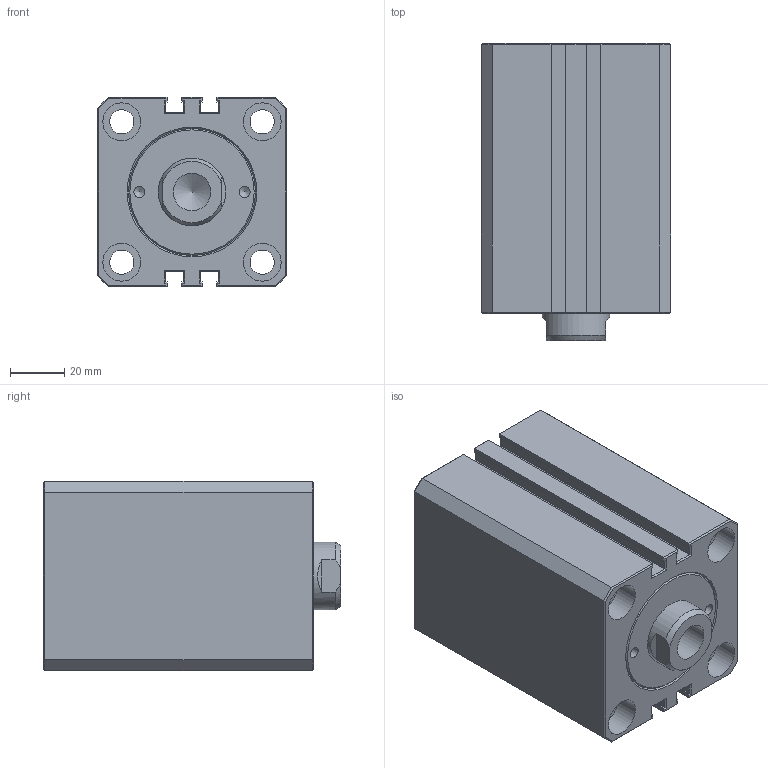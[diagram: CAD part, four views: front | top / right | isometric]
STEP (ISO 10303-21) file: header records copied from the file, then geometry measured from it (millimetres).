
FILE_DESCRIPTION(/* description */ ('Unknown'),/* implementation_level */ '2;1');
FILE_NAME(/* name */ 'HTM140-SD40X30N',/* time_stamp */ '2022-09-01T01:29:59+08:00',/* author */ ('Unknown'),/* organization */ ('Unknown'),/* preprocessor_version */ 'ST-DEVELOPER v16.7',/* originating_system */ 'DEX',/* authorisation */ $);
FILE_SCHEMA (('AUTOMOTIVE_DESIGN {1 0 10303 214 3 1 1}'));
Length unit declared in the file: millimetre
Products named in the file (1): HTM140-SD40X30N
Bounding box: 70 x 110 x 70 mm (x, y, z)
Volume: 438808.7 mm3; surface area: 56496.9 mm2
Topology: 1 solids, 1 shells, 187 faces, 428 edges, 257 vertices
Faces by surface type: plane 140, cylinder 19, cone 16, bspline 12
Full cylindrical faces by diameter (mm): 4.1 x2, 6 x1, 9 x4, 12.301 x2, 13.835 x1, 14 x8, 25 x1
Entity records: 6351 total; most frequent: CARTESIAN_POINT 1059, ORIENTED_EDGE 778, DIRECTION 768, EDGE_CURVE 389, LINE 294, VECTOR 294, VERTEX_POINT 248, FACE_BOUND 239
